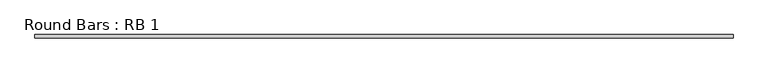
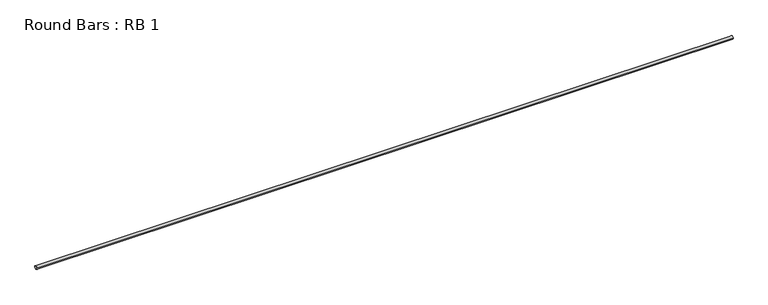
"""IFC4 building model written with IfcOpenShell, lengths in millimetres: beam geometry, Round Bars : RB 1."""

from ifc_helpers import new_model, si_unit, point, frame, origin, origin_2d, place, context, project, spatial, circle_curve, trimmed, segment, composite_curve, outline, extrude, source, transform, mapped, element, save


def round_bars_rb_1_949807f2(model_context):
    return source(origin(), model_context, "Body", "SweptSolid", [
        extrude(outline(composite_curve([segment(trimmed(circle_curve(origin_2d(), 12.7), [point((12.7, 0.0))], [point((-12.7, 0.0))], False, "CARTESIAN"), True, "CONTINUOUS"), segment(trimmed(circle_curve(origin_2d(), 12.7), [point((-12.7, 0.0))], [point((12.7, 0.0))], False, "CARTESIAN"), True, "CONTINUOUS")], self_intersect=False)), frame((-2654.7307427, 0.0, 0.0), z_axis=(1.0, 0.0, 0.0), x_axis=(0.0, 1.0, 0.0)), (0.0, 0.0, 1.0), 5294.5110453),
    ])


if __name__ == "__main__":
    model = new_model("IFC4")
    model_context = context("Model", 3, world=origin())
    ifc_project = project(units=[si_unit("LENGTHUNIT", "METRE", prefix="MILLI")], contexts=[model_context])
    site = spatial("IfcSite", under=ifc_project)
    building = spatial("IfcBuilding", under=site)
    placement = place(None, origin())
    round_bars_rb_1_shape = round_bars_rb_1_949807f2(model_context)
    element("IfcBeam", 1, ObjectType="Round Bars : RB 1", at=placement, inside=building, context=model_context, shape_type="MappedRepresentation", body=[
        mapped(round_bars_rb_1_shape, transform((0.0, 0.0, 0.0), x_axis=(1.0, 0.0, 0.0), y_axis=(0.0, 1.0, 0.0), z_axis=(0.0, 0.0, 1.0))),
    ])
    save(model, "model.ifc")
